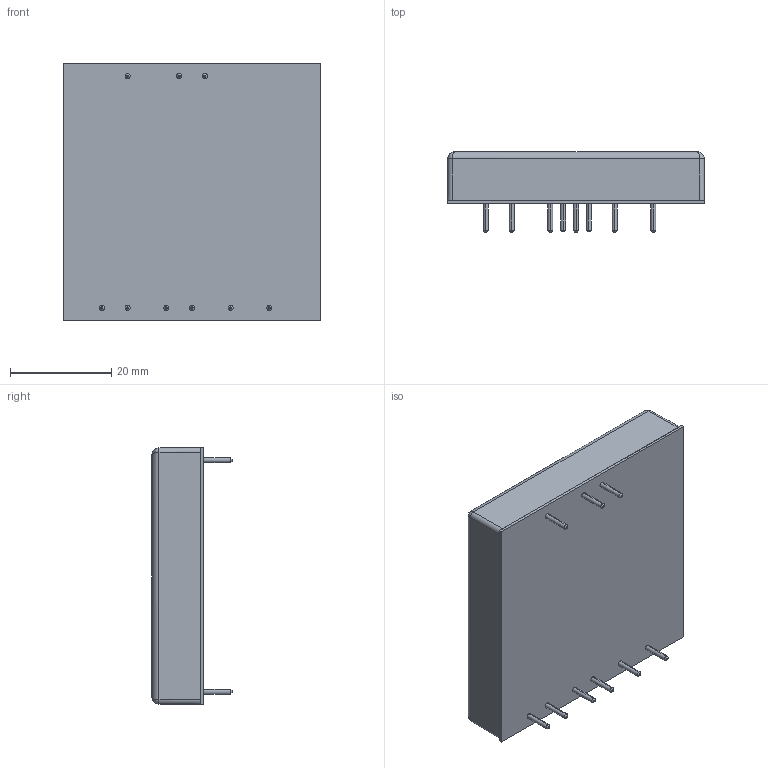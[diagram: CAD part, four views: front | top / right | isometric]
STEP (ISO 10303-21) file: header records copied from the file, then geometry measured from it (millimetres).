
FILE_DESCRIPTION (( 'STEP AP214' ), '1' );
FILE_NAME ('ten40.STEP', '2015-11-13T13:56:44', ( '' ), ( '' ), 'SwSTEP 2.0', 'SolidWorks 2013', '' );
FILE_SCHEMA (( 'AUTOMOTIVE_DESIGN' ));
Length unit declared in the file: millimetre
Products named in the file (1): ten40
Bounding box: 50.8 x 15.8 x 50.8 mm (x, y, z)
Volume: 26093.5 mm3; surface area: 7228.3 mm2
Topology: 1 solids, 1 shells, 68 faces, 142 edges, 82 vertices
Faces by surface type: cylinder 26, plane 20, cone 18, bspline 4
Entity records: 2874 total; most frequent: CARTESIAN_POINT 665, DIRECTION 314, ORIENTED_EDGE 276, EDGE_CURVE 138, AXIS2_PLACEMENT_3D 123, VERTEX_POINT 82, EDGE_LOOP 78, UNCERTAINTY_MEASURE_WITH_UNIT 71
